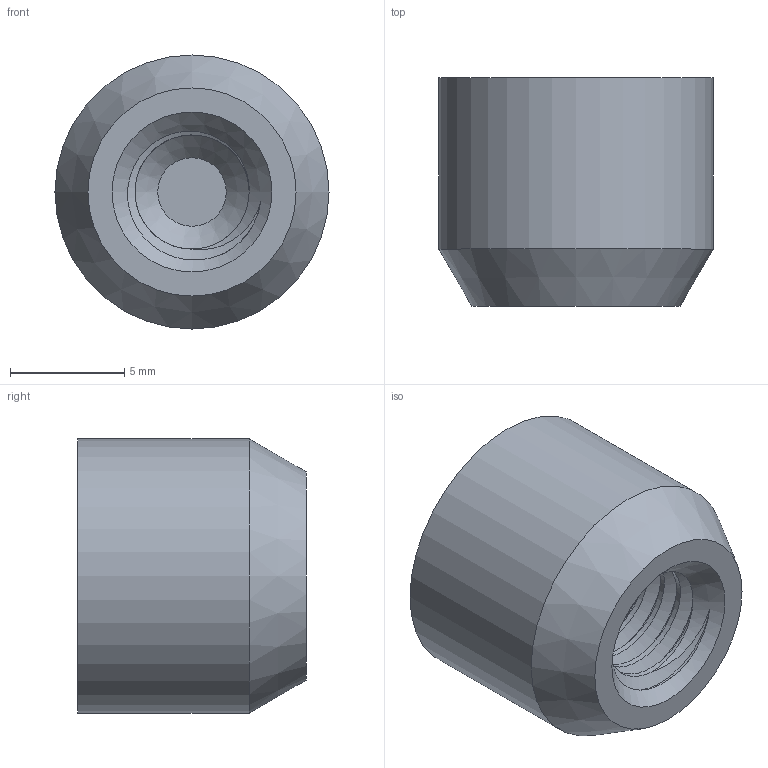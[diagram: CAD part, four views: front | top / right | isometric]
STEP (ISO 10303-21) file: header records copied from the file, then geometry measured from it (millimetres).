
FILE_DESCRIPTION (( 'STEP AP214' ), '1' );
FILE_NAME ('PET-12.STEP', '2018-10-09T18:02:29', ( '' ), ( '' ), 'SwSTEP 2.0', 'SolidWorks 2017', '' );
FILE_SCHEMA (( 'AUTOMOTIVE_DESIGN' ));
Length unit declared in the file: millimetre
Products named in the file (1): PET-12
Bounding box: 12 x 10 x 12 mm (x, y, z)
Volume: 882.9 mm3; surface area: 746.7 mm2
Topology: 1 solids, 1 shells, 107 faces, 289 edges, 192 vertices
Faces by surface type: plane 72, bspline 25, cylinder 7, cone 3
Full cylindrical faces by diameter (mm): 5 x6, 12 x1
Entity records: 4779 total; most frequent: CARTESIAN_POINT 2439, ORIENTED_EDGE 534, DIRECTION 356, EDGE_CURVE 267, VECTOR 186, LINE 186, VERTEX_POINT 180, EDGE_LOOP 115
